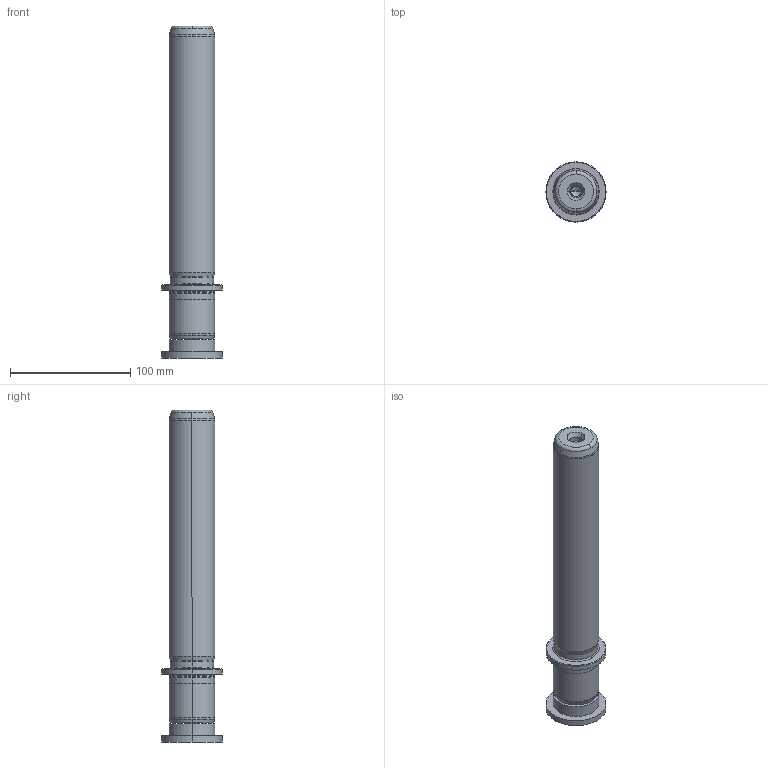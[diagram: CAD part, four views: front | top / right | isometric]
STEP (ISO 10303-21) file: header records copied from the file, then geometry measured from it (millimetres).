
FILE_DESCRIPTION((''),'2;1');
FILE_NAME('P22_038_220.stp','2009-02-16T09:16:35',(''),(''),'Mechanical Desktop 2009','Mechanical Desktop 2009',', , ');
FILE_SCHEMA(('CONFIG_CONTROL_DESIGN'));
Length unit declared in the file: millimetre
Products named in the file (2): Product; blmdl1
Assembly tree (1 placements, depth 2):
  Product
    blmdl1
Bounding box: 50 x 50 x 276 mm (x, y, z)
Volume: 314326 mm3; surface area: 44505.6 mm2
Topology: 3 solids, 3 shells, 99 faces, 237 edges, 149 vertices
Faces by surface type: cylinder 32, cone 28, plane 19, torus 10, bspline 10
Entity records: 3419 total; most frequent: CARTESIAN_POINT 923, DIRECTION 570, ORIENTED_EDGE 466, AXIS2_PLACEMENT_3D 246, EDGE_CURVE 233, CIRCLE 155, VERTEX_POINT 149, EDGE_LOOP 110
